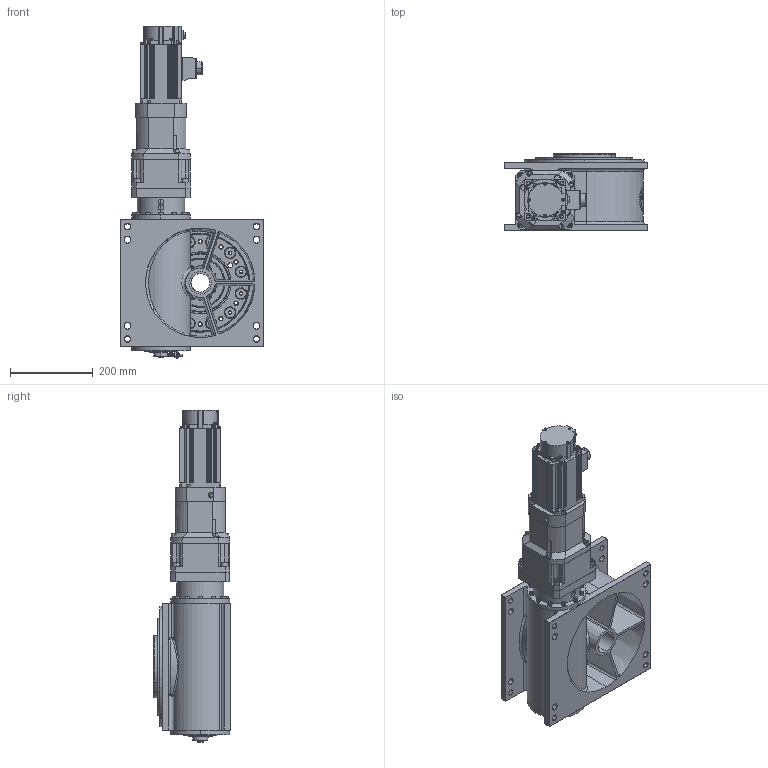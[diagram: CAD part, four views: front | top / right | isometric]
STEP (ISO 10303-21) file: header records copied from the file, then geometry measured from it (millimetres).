
FILE_DESCRIPTION (( 'STEP AP214' ), '1' );
FILE_NAME ('M235_IBR_PB142_12.STEP', '2020-06-17T04:52:46', ( '' ), ( '' ), 'SwSTEP 2.0', 'SolidWorks 2020', '' );
FILE_SCHEMA (( 'AUTOMOTIVE_DESIGN' ));
Length unit declared in the file: millimetre
Products named in the file (1): M235_IBR_PB142_12
Bounding box: 348 x 188 x 803 mm (x, y, z)
Surface area: 1093810.8 mm2 (no closed solid volume)
Topology: 0 solids, 114 shells, 1864 faces, 5542 edges, 3685 vertices
Faces by surface type: plane 686, cylinder 637, cone 303, bspline 106, torus 100, sphere 32
Entity records: 92314 total; most frequent: CARTESIAN_POINT 22326, DIRECTION 10671, ORIENTED_EDGE 9426, EDGE_CURVE 5484, AXIS2_PLACEMENT_3D 3962, VERTEX_POINT 3685, VECTOR 2747, LINE 2747
